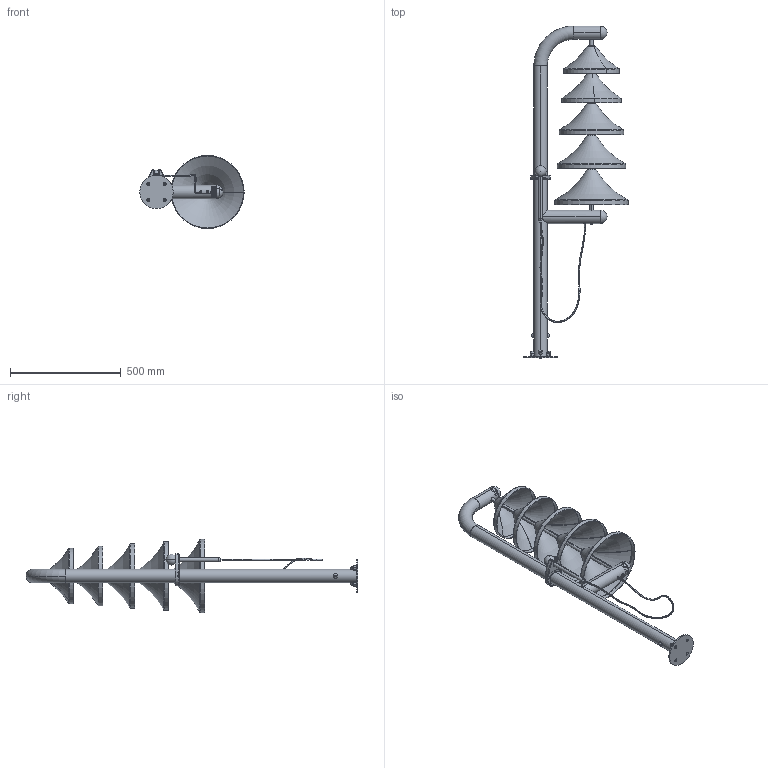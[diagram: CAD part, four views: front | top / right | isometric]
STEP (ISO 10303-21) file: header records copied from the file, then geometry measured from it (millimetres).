
FILE_DESCRIPTION (( 'STEP AP214' ), '1' );
FILE_NAME ('560.050.011.001 - Bells Monk - Flat Anchoring.STEP', '2019-01-21T08:47:13', ( '' ), ( '' ), 'SwSTEP 2.0', 'SolidWorks 2018', '' );
FILE_SCHEMA (( 'AUTOMOTIVE_DESIGN' ));
Length unit declared in the file: millimetre
Products named in the file (1): 560.050.011.001 - Bells Monk - Flat Anchoring
Bounding box: 469.71 x 1496.35 x 330 mm (x, y, z)
Volume: 2546596 mm3; surface area: 1963138.3 mm2
Topology: 21 solids, 33 shells, 944 faces, 2138 edges, 1299 vertices
Faces by surface type: cylinder 312, plane 266, torus 145, cone 114, sphere 56, bspline 51
Entity records: 40521 total; most frequent: CARTESIAN_POINT 9046, DIRECTION 4820, ORIENTED_EDGE 4094, AXIS2_PLACEMENT_3D 2091, EDGE_CURVE 2047, VERTEX_POINT 1266, CIRCLE 1205, EDGE_LOOP 1075
